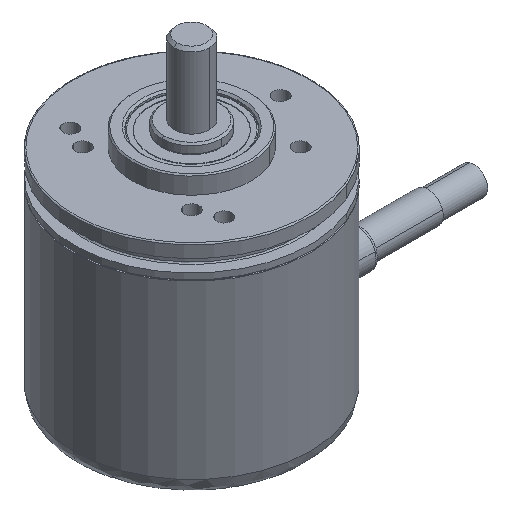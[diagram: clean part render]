
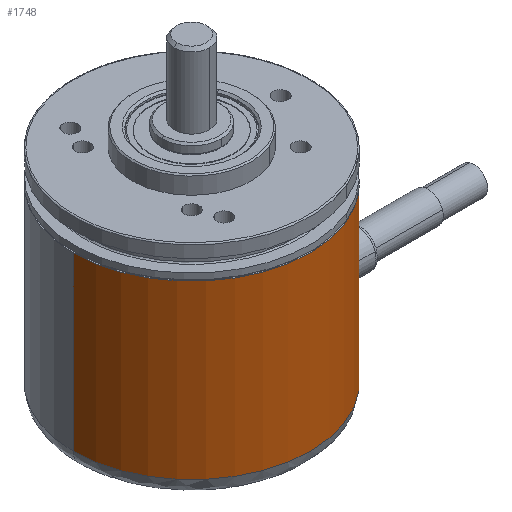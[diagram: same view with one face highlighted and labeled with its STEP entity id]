
A CAD part, isometric view. The second image highlights one B-rep face of the part: STEP entity #1748.
In plain terms, the highlighted cylindrical face has radius 20 mm (diameter 40 mm), a partial arc.
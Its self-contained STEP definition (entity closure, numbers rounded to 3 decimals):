
#27 = VECTOR ( 'NONE', #3501, 1000. ) ;
#89 = CARTESIAN_POINT ( 'NONE',  ( 19.766, -3.05, 8.997 ) ) ;
#124 = DIRECTION ( 'NONE',  ( 0., 0., -1. ) ) ;
#126 = CARTESIAN_POINT ( 'NONE',  ( 20., 0., 32. ) ) ;
#144 = CARTESIAN_POINT ( 'NONE',  ( 19.899, -2.016, 11.098 ) ) ;
#151 = CARTESIAN_POINT ( 'NONE',  ( 19.853, -2.423, 6.937 ) ) ;
#161 = DIRECTION ( 'NONE',  ( 0., 0., -1. ) ) ;
#220 = CARTESIAN_POINT ( 'NONE',  ( -20., 0., 32. ) ) ;
#320 = ORIENTED_EDGE ( 'NONE', *, *, #3892, .T. ) ;
#378 = CARTESIAN_POINT ( 'NONE',  ( 20., 0., 5.75 ) ) ;
#461 = CARTESIAN_POINT ( 'NONE',  ( 0., 0., 32. ) ) ;
#496 = CARTESIAN_POINT ( 'NONE',  ( 20., 0., 5.75 ) ) ;
#532 = ORIENTED_EDGE ( 'NONE', *, *, #642, .F. ) ;
#572 = LINE ( 'NONE', #3950, #27 ) ;
#620 = VERTEX_POINT ( 'NONE', #220 ) ;
#642 = EDGE_CURVE ( 'NONE', #3995, #2847, #2178, .T. ) ;
#651 = CARTESIAN_POINT ( 'NONE',  ( 19.824, -2.646, 7.27 ) ) ;
#654 = AXIS2_PLACEMENT_3D ( 'NONE', #3346, #3329, #3325 ) ;
#656 = LINE ( 'NONE', #3534, #745 ) ;
#681 = CARTESIAN_POINT ( 'NONE',  ( 19.781, -2.952, 8.007 ) ) ;
#685 = EDGE_CURVE ( 'NONE', #3216, #3635, #572, .T. ) ;
#694 = EDGE_CURVE ( 'NONE', #3995, #620, #1522, .T. ) ;
#702 = EDGE_CURVE ( 'NONE', #3216, #2847, #2492, .T. ) ;
#745 = VECTOR ( 'NONE', #3527, 1000. ) ;
#767 = AXIS2_PLACEMENT_3D ( 'NONE', #461, #161, #3396 ) ;
#1046 = CARTESIAN_POINT ( 'NONE',  ( 20., 0., 11.85 ) ) ;
#1098 = CARTESIAN_POINT ( 'NONE',  ( 20., 0., 11.85 ) ) ;
#1168 = CARTESIAN_POINT ( 'NONE',  ( 19.955, -1.353, 6.059 ) ) ;
#1247 = CARTESIAN_POINT ( 'NONE',  ( 19.79, -2.895, 9.781 ) ) ;
#1292 = CARTESIAN_POINT ( 'NONE',  ( 19.985, -0.795, 11.751 ) ) ;
#1390 = CARTESIAN_POINT ( 'NONE',  ( 19.985, -0.79, 5.847 ) ) ;
#1403 = CARTESIAN_POINT ( 'NONE',  ( 19.955, -1.354, 11.54 ) ) ;
#1434 = CARTESIAN_POINT ( 'NONE',  ( 19.997, -0.4, 5.77 ) ) ;
#1448 = FACE_OUTER_BOUND ( 'NONE', #2140, .T. ) ;
#1522 = CIRCLE ( 'NONE', #767, 20. ) ;
#1679 = CIRCLE ( 'NONE', #654, 20. ) ;
#1748 = ADVANCED_FACE ( 'NONE', ( #1448 ), #2053, .T. ) ;
#1815 = CARTESIAN_POINT ( 'NONE',  ( 19.868, -2.3, 10.813 ) ) ;
#1843 = CARTESIAN_POINT ( 'NONE',  ( 19.977, -0.984, 5.906 ) ) ;
#1956 = CARTESIAN_POINT ( 'NONE',  ( -20., 0., 3. ) ) ;
#2053 = CYLINDRICAL_SURFACE ( 'NONE', #2935, 20. ) ;
#2055 = CARTESIAN_POINT ( 'NONE',  ( 19.868, -2.297, 6.784 ) ) ;
#2059 = CARTESIAN_POINT ( 'NONE',  ( 19.942, -1.528, 6.153 ) ) ;
#2140 = EDGE_LOOP ( 'NONE', ( #532, #3692, #320, #2902, #3421, #4090 ) ) ;
#2178 = LINE ( 'NONE', #126, #3870 ) ;
#2419 = CARTESIAN_POINT ( 'NONE',  ( 19.811, -2.741, 7.447 ) ) ;
#2492 = B_SPLINE_CURVE_WITH_KNOTS ( 'NONE', 3,
 ( #378, #3063, #1434, #1390, #1843, #1168, #2059, #2678, #2811, #2055, #151, #651, #2419, #2977, #681, #3006, #3148, #89, #2600, #3235, #1247, #2788, #3445, #4000, #1815, #144, #2770, #3212, #1403, #2807, #1292, #3570, #3186, #1046 ),
 .UNSPECIFIED., .F., .F.,
 ( 4, 2, 2, 2, 2, 2, 2, 2, 2, 2, 2, 2, 2, 2, 2, 2, 4 ),
 ( 0.01, 0.01, 0.011, 0.011, 0.012, 0.013, 0.013, 0.014, 0.014, 0.015, 0.016, 0.016, 0.017, 0.017, 0.018, 0.018, 0.019 ),
 .UNSPECIFIED. ) ;
#2600 = CARTESIAN_POINT ( 'NONE',  ( 19.769, -3.03, 9.199 ) ) ;
#2678 = CARTESIAN_POINT ( 'NONE',  ( 19.914, -1.86, 6.374 ) ) ;
#2770 = CARTESIAN_POINT ( 'NONE',  ( 19.914, -1.862, 11.224 ) ) ;
#2788 = CARTESIAN_POINT ( 'NONE',  ( 19.811, -2.742, 10.151 ) ) ;
#2807 = CARTESIAN_POINT ( 'NONE',  ( 19.977, -0.985, 11.693 ) ) ;
#2811 = CARTESIAN_POINT ( 'NONE',  ( 19.899, -2.016, 6.503 ) ) ;
#2847 = VERTEX_POINT ( 'NONE', #1098 ) ;
#2902 = ORIENTED_EDGE ( 'NONE', *, *, #3976, .T. ) ;
#2935 = AXIS2_PLACEMENT_3D ( 'NONE', #3394, #3399, #3339 ) ;
#2977 = CARTESIAN_POINT ( 'NONE',  ( 19.79, -2.893, 7.814 ) ) ;
#3006 = CARTESIAN_POINT ( 'NONE',  ( 19.769, -3.03, 8.4 ) ) ;
#3063 = CARTESIAN_POINT ( 'NONE',  ( 20., -0.202, 5.75 ) ) ;
#3148 = CARTESIAN_POINT ( 'NONE',  ( 19.766, -3.05, 8.598 ) ) ;
#3186 = CARTESIAN_POINT ( 'NONE',  ( 20., -0.202, 11.85 ) ) ;
#3212 = CARTESIAN_POINT ( 'NONE',  ( 19.942, -1.532, 11.444 ) ) ;
#3216 = VERTEX_POINT ( 'NONE', #496 ) ;
#3235 = CARTESIAN_POINT ( 'NONE',  ( 19.781, -2.952, 9.591 ) ) ;
#3325 = DIRECTION ( 'NONE',  ( -1., 0., 0. ) ) ;
#3329 = DIRECTION ( 'NONE',  ( 0., 0., 1. ) ) ;
#3339 = DIRECTION ( 'NONE',  ( -1., 0., 0. ) ) ;
#3346 = CARTESIAN_POINT ( 'NONE',  ( 0., 0., 3. ) ) ;
#3377 = CARTESIAN_POINT ( 'NONE',  ( 20., 0., 32. ) ) ;
#3394 = CARTESIAN_POINT ( 'NONE',  ( 0., 0., 32. ) ) ;
#3396 = DIRECTION ( 'NONE',  ( -1., 0., 0. ) ) ;
#3399 = DIRECTION ( 'NONE',  ( 0., 0., -1. ) ) ;
#3421 = ORIENTED_EDGE ( 'NONE', *, *, #685, .F. ) ;
#3445 = CARTESIAN_POINT ( 'NONE',  ( 19.824, -2.647, 10.329 ) ) ;
#3454 = VERTEX_POINT ( 'NONE', #1956 ) ;
#3501 = DIRECTION ( 'NONE',  ( 0., 0., -1. ) ) ;
#3527 = DIRECTION ( 'NONE',  ( 0., 0., -1. ) ) ;
#3534 = CARTESIAN_POINT ( 'NONE',  ( -20., 0., 32. ) ) ;
#3570 = CARTESIAN_POINT ( 'NONE',  ( 19.997, -0.404, 11.83 ) ) ;
#3635 = VERTEX_POINT ( 'NONE', #3868 ) ;
#3692 = ORIENTED_EDGE ( 'NONE', *, *, #694, .T. ) ;
#3868 = CARTESIAN_POINT ( 'NONE',  ( 20., 0., 3. ) ) ;
#3870 = VECTOR ( 'NONE', #124, 1000. ) ;
#3892 = EDGE_CURVE ( 'NONE', #620, #3454, #656, .T. ) ;
#3950 = CARTESIAN_POINT ( 'NONE',  ( 20., 0., 32. ) ) ;
#3976 = EDGE_CURVE ( 'NONE', #3454, #3635, #1679, .T. ) ;
#3995 = VERTEX_POINT ( 'NONE', #3377 ) ;
#4000 = CARTESIAN_POINT ( 'NONE',  ( 19.853, -2.426, 10.659 ) ) ;
#4090 = ORIENTED_EDGE ( 'NONE', *, *, #702, .T. ) ;
